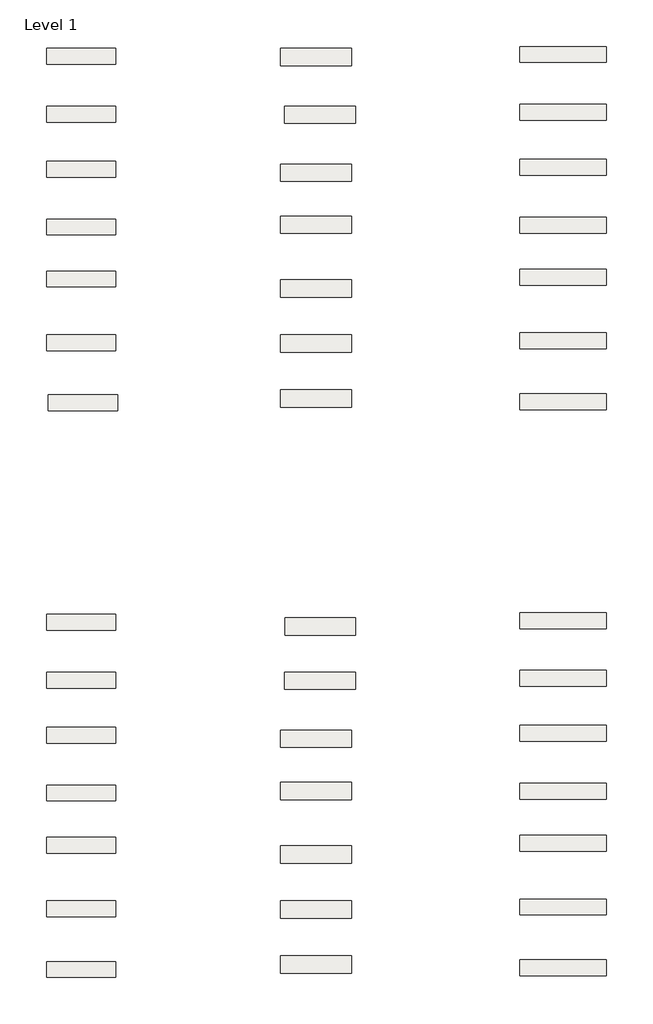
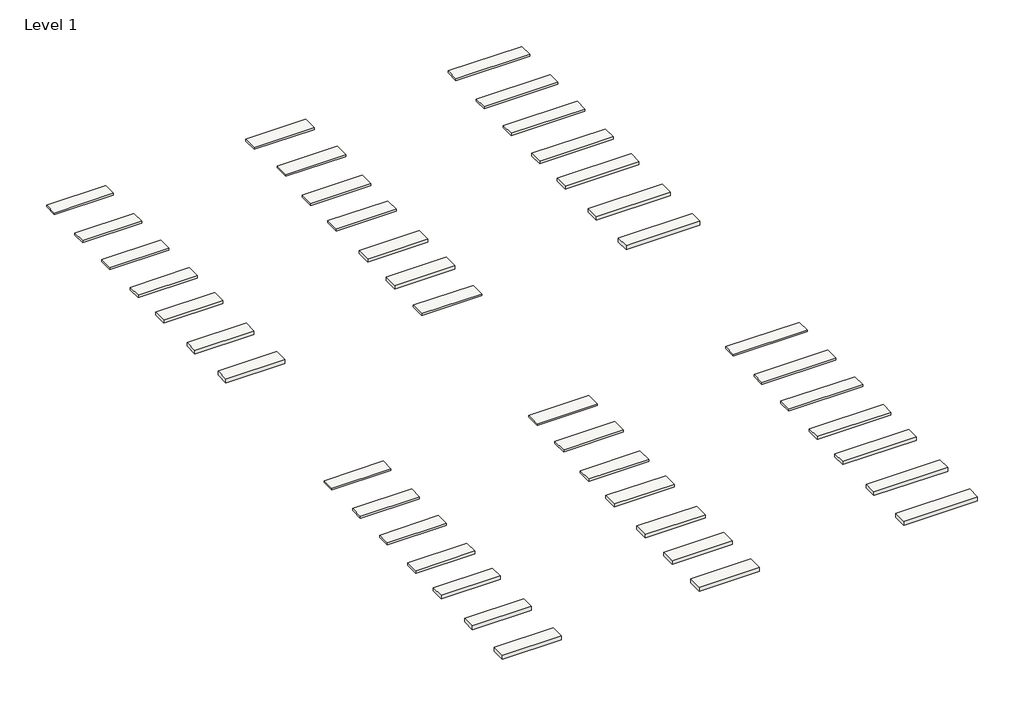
# One storey: 42 roofs.
"""IFC4 building model written with IfcOpenShell, lengths in millimetres."""

from ifc_helpers import new_model, si_unit, origin, origin_with_axes, place, context, project, spatial, polyline, outline, extrude, element, save

model = new_model("IFC4")

# Units and contexts
model_context = context("Model", 3, world=origin())
ifc_project = project(units=[si_unit("LENGTHUNIT", "METRE", prefix="MILLI")], contexts=[model_context])

# Site, building, storey
site = spatial("IfcSite", under=ifc_project)
building = spatial("IfcBuilding", under=site)
storey = spatial("IfcBuildingStorey", under=building, Name="Level 1", Elevation=0.0)

# Roofs
placement = place(None, origin())
element("IfcRoof", 1, ObjectType="Panel Thermochip TOH 15-40-16 (2400x550)", at=placement, inside=storey, context=model_context, shape_type="SweptSolid", body=[
    extrude(outline(polyline([(-17878.9678788, 6399.8223879), (-15478.9678788, 6399.8223879), (-15478.9678788, 5849.8223879), (-17878.9678788, 5849.8223879), (-17878.9678788, 6399.8223879)])), origin_with_axes(), (0.0, 0.0, 1.0), 71.0),
])
element("IfcRoof", 2, ObjectType="Panel Thermochip TOH 15-50-16 (2400x550)", at=placement, inside=storey, context=model_context, shape_type="SweptSolid", body=[
    extrude(outline(polyline([(-17878.9678788, 4399.8223879), (-15478.9678788, 4399.8223879), (-15478.9678788, 3849.8223879), (-17878.9678788, 3849.8223879), (-17878.9678788, 4399.8223879)])), origin_with_axes(), (0.0, 0.0, 1.0), 81.0),
])
element("IfcRoof", 3, ObjectType="Panel Thermochip TOH 10-60-16 (2400x550)", at=placement, inside=storey, context=model_context, shape_type="SweptSolid", body=[
    extrude(outline(polyline([(-17878.9678788, 2499.8223879), (-15478.9678788, 2499.8223879), (-15478.9678788, 1949.8223879), (-17878.9678788, 1949.8223879), (-17878.9678788, 2499.8223879)])), origin_with_axes(), (0.0, 0.0, 1.0), 91.0),
])
element("IfcRoof", 4, ObjectType="Panel Thermochip TOH 15-80-16 (2400x550)", at=placement, inside=storey, context=model_context, shape_type="SweptSolid", body=[
    extrude(outline(polyline([(-17878.9678788, 499.8223879), (-15478.9678788, 499.8223879), (-15478.9678788, -50.1776121), (-17878.9678788, -50.1776121), (-17878.9678788, 499.8223879)])), origin_with_axes(), (0.0, 0.0, 1.0), 111.0),
])
element("IfcRoof", 5, ObjectType="Panel Thermochip TOH 15-100-16 (2400x550)", at=placement, inside=storey, context=model_context, shape_type="SweptSolid", body=[
    extrude(outline(polyline([(-17878.9678788, -1300.1776121), (-15478.9678788, -1300.1776121), (-15478.9678788, -1850.1776121), (-17878.9678788, -1850.1776121), (-17878.9678788, -1300.1776121)])), origin_with_axes(), (0.0, 0.0, 1.0), 131.0),
])
element("IfcRoof", 6, ObjectType="Panel Thermochip TOH 15-120-16 (2400x550)", at=placement, inside=storey, context=model_context, shape_type="SweptSolid", body=[
    extrude(outline(polyline([(-17878.9678788, -3500.1776121), (-15478.9678788, -3500.1776121), (-15478.9678788, -4050.1776121), (-17878.9678788, -4050.1776121), (-17878.9678788, -3500.1776121)])), origin_with_axes(), (0.0, 0.0, 1.0), 151.0),
])
element("IfcRoof", 7, ObjectType="Panel Thermochip TOH 15-140-16 (2400x550)", at=placement, inside=storey, context=model_context, shape_type="SweptSolid", body=[
    extrude(outline(polyline([(-17820.3390717, -5581.0046098), (-15420.3390717, -5581.0046098), (-15420.3390717, -6131.0046098), (-17820.3390717, -6131.0046098), (-17820.3390717, -5581.0046098)])), origin_with_axes(), (0.0, 0.0, 1.0), 171.0),
])
element("IfcRoof", 8, ObjectType="Panel Thermochip TOH 15-40-16 (2440x550)", at=placement, inside=storey, context=model_context, shape_type="SweptSolid", body=[
    extrude(outline(polyline([(-9778.9678788, 6399.8223879), (-7338.9678788, 6399.8223879), (-7338.9678788, 5799.8223879), (-9778.9678788, 5799.8223879), (-9778.9678788, 6399.8223879)])), origin_with_axes(), (0.0, 0.0, 1.0), 71.0),
])
element("IfcRoof", 9, ObjectType="Panel Thermochip TOH 15-50-16 (2440x600)", at=placement, inside=storey, context=model_context, shape_type="SweptSolid", body=[
    extrude(outline(polyline([(-9639.4549313, 4404.6942874), (-7199.4549313, 4404.6942874), (-7199.4549313, 3804.6942874), (-9639.4549313, 3804.6942874), (-9639.4549313, 4404.6942874)])), origin_with_axes(), (0.0, 0.0, 1.0), 81.0),
])
element("IfcRoof", 10, ObjectType="Panel Thermochip TOH 15-60-16 (2440x600)", at=placement, inside=storey, context=model_context, shape_type="SweptSolid", body=[
    extrude(outline(polyline([(-9778.9678788, 2399.8223879), (-7338.9678788, 2399.8223879), (-7338.9678788, 1799.8223879), (-9778.9678788, 1799.8223879), (-9778.9678788, 2399.8223879)])), origin_with_axes(), (0.0, 0.0, 1.0), 91.0),
])
element("IfcRoof", 11, ObjectType="Panel Thermochip TOH 15-80-16 (2440x600)", at=placement, inside=storey, context=model_context, shape_type="SweptSolid", body=[
    extrude(outline(polyline([(-9778.9678788, 599.8223879), (-7338.9678788, 599.8223879), (-7338.9678788, -0.1776121), (-9778.9678788, -0.1776121), (-9778.9678788, 599.8223879)])), origin_with_axes(), (0.0, 0.0, 1.0), 81.0),
])
element("IfcRoof", 12, ObjectType="Panel Thermochip TOH 15-100-16 (2440x600)", at=placement, inside=storey, context=model_context, shape_type="SweptSolid", body=[
    extrude(outline(polyline([(-9778.9678788, -1600.1776121), (-7338.9678788, -1600.1776121), (-7338.9678788, -2200.1776121), (-9778.9678788, -2200.1776121), (-9778.9678788, -1600.1776121)])), origin_with_axes(), (0.0, 0.0, 1.0), 131.0),
])
element("IfcRoof", 13, ObjectType="Panel Thermochip TOH 15-120-16 (2440x600)", at=placement, inside=storey, context=model_context, shape_type="SweptSolid", body=[
    extrude(outline(polyline([(-9778.9678788, -3500.1776121), (-7338.9678788, -3500.1776121), (-7338.9678788, -4100.1776121), (-9778.9678788, -4100.1776121), (-9778.9678788, -3500.1776121)])), origin_with_axes(), (0.0, 0.0, 1.0), 151.0),
])
element("IfcRoof", 14, ObjectType="Panel Thermochip TOH 10-140-16 (2440x550)", at=placement, inside=storey, context=model_context, shape_type="SweptSolid", body=[
    extrude(outline(polyline([(-9778.9678788, -5400.1776121), (-7338.9678788, -5400.1776121), (-7338.9678788, -6000.1776121), (-9778.9678788, -6000.1776121), (-9778.9678788, -5400.1776121)])), origin_with_axes(), (0.0, 0.0, 1.0), 81.0),
])
element("IfcRoof", 15, ObjectType="Panel Thermochip TOH 15-40-16 (3000x550)", at=placement, inside=storey, context=model_context, shape_type="SweptSolid", body=[
    extrude(outline(polyline([(-1510.4474716, 6460.3549134), (1489.5525284, 6460.3549134), (1489.5525284, 5910.3549134), (-1510.4474716, 5910.3549134), (-1510.4474716, 6460.3549134)])), origin_with_axes(), (0.0, 0.0, 1.0), 81.0),
])
element("IfcRoof", 16, ObjectType="Panel Thermochip TOH 15-50-16 (3000x550)", at=placement, inside=storey, context=model_context, shape_type="SweptSolid", body=[
    extrude(outline(polyline([(-1510.4474716, 4460.3549134), (1489.5525284, 4460.3549134), (1489.5525284, 3910.3549134), (-1510.4474716, 3910.3549134), (-1510.4474716, 4460.3549134)])), origin_with_axes(), (0.0, 0.0, 1.0), 81.0),
])
element("IfcRoof", 17, ObjectType="Panel Thermochip TOH 15-60-16 (3000x550)", at=placement, inside=storey, context=model_context, shape_type="SweptSolid", body=[
    extrude(outline(polyline([(-1510.4474716, 2560.3549134), (1489.5525284, 2560.3549134), (1489.5525284, 2010.3549134), (-1510.4474716, 2010.3549134), (-1510.4474716, 2560.3549134)])), origin_with_axes(), (0.0, 0.0, 1.0), 91.0),
])
element("IfcRoof", 18, ObjectType="Panel Thermochip TOH 15-80-16 (3000x550)", at=placement, inside=storey, context=model_context, shape_type="SweptSolid", body=[
    extrude(outline(polyline([(-1510.4474716, 560.3549134), (1489.5525284, 560.3549134), (1489.5525284, 10.3549134), (-1510.4474716, 10.3549134), (-1510.4474716, 560.3549134)])), origin_with_axes(), (0.0, 0.0, 1.0), 111.0),
])
element("IfcRoof", 19, ObjectType="Panel Thermochip TOH 15-100-16 (3000x550)", at=placement, inside=storey, context=model_context, shape_type="SweptSolid", body=[
    extrude(outline(polyline([(-1510.4474716, -1239.6450866), (1489.5525284, -1239.6450866), (1489.5525284, -1789.6450866), (-1510.4474716, -1789.6450866), (-1510.4474716, -1239.6450866)])), origin_with_axes(), (0.0, 0.0, 1.0), 131.0),
])
element("IfcRoof", 20, ObjectType="Panel Thermochip TOH 15-120-16 (3000x600)", at=placement, inside=storey, context=model_context, shape_type="SweptSolid", body=[
    extrude(outline(polyline([(-1510.4474716, -3439.6450866), (1489.5525284, -3439.6450866), (1489.5525284, -3989.6450866), (-1510.4474716, -3989.6450866), (-1510.4474716, -3439.6450866)])), origin_with_axes(), (0.0, 0.0, 1.0), 151.0),
])
element("IfcRoof", 21, ObjectType="Panel Thermochip TOH 15-140-16 (3000x550)", at=placement, inside=storey, context=model_context, shape_type="SweptSolid", body=[
    extrude(outline(polyline([(-1510.4474716, -5539.6450866), (1489.5525284, -5539.6450866), (1489.5525284, -6089.6450866), (-1510.4474716, -6089.6450866), (-1510.4474716, -5539.6450866)])), origin_with_axes(), (0.0, 0.0, 1.0), 171.0),
])
element("IfcRoof", 22, ObjectType="Panel Thermochip TOH 15-40-19 (2400x550)", at=placement, inside=storey, context=model_context, shape_type="SweptSolid", body=[
    extrude(outline(polyline([(-17878.9678788, -13163.6783749), (-15478.9678788, -13163.6783749), (-15478.9678788, -13713.6783749), (-17878.9678788, -13713.6783749), (-17878.9678788, -13163.6783749)])), origin_with_axes(), (0.0, 0.0, 1.0), 74.0),
])
element("IfcRoof", 23, ObjectType="Panel Thermochip TOH 15-50-19 (2400x550)", at=placement, inside=storey, context=model_context, shape_type="SweptSolid", body=[
    extrude(outline(polyline([(-17878.9678788, -15163.6783749), (-15478.9678788, -15163.6783749), (-15478.9678788, -15713.6783749), (-17878.9678788, -15713.6783749), (-17878.9678788, -15163.6783749)])), origin_with_axes(), (0.0, 0.0, 1.0), 84.0),
])
element("IfcRoof", 24, ObjectType="Panel Thermochip TOH 15-60-19 (2400x550)", at=placement, inside=storey, context=model_context, shape_type="SweptSolid", body=[
    extrude(outline(polyline([(-17878.9678788, -17063.6783749), (-15478.9678788, -17063.6783749), (-15478.9678788, -17613.6783749), (-17878.9678788, -17613.6783749), (-17878.9678788, -17063.6783749)])), origin_with_axes(), (0.0, 0.0, 1.0), 94.0),
])
element("IfcRoof", 25, ObjectType="Panel Thermochip TOH 15-80-19 (2400x550)", at=placement, inside=storey, context=model_context, shape_type="SweptSolid", body=[
    extrude(outline(polyline([(-17878.9678788, -19063.6783749), (-15478.9678788, -19063.6783749), (-15478.9678788, -19613.6783749), (-17878.9678788, -19613.6783749), (-17878.9678788, -19063.6783749)])), origin_with_axes(), (0.0, 0.0, 1.0), 114.0),
])
element("IfcRoof", 26, ObjectType="Panel Thermochip TOH 15-100-19 (2400x550)", at=placement, inside=storey, context=model_context, shape_type="SweptSolid", body=[
    extrude(outline(polyline([(-17878.9678788, -20863.6783749), (-15478.9678788, -20863.6783749), (-15478.9678788, -21413.6783749), (-17878.9678788, -21413.6783749), (-17878.9678788, -20863.6783749)])), origin_with_axes(), (0.0, 0.0, 1.0), 134.0),
])
element("IfcRoof", 27, ObjectType="Panel Thermochip TOH 15-120-19 (2400x550)", at=placement, inside=storey, context=model_context, shape_type="SweptSolid", body=[
    extrude(outline(polyline([(-17878.9678788, -23063.6783749), (-15478.9678788, -23063.6783749), (-15478.9678788, -23613.6783749), (-17878.9678788, -23613.6783749), (-17878.9678788, -23063.6783749)])), origin_with_axes(), (0.0, 0.0, 1.0), 154.0),
])
element("IfcRoof", 28, ObjectType="Panel Thermochip TOH 15-140-19 (2400x550)", at=placement, inside=storey, context=model_context, shape_type="SweptSolid", body=[
    extrude(outline(polyline([(-17878.9678788, -25163.6783749), (-15478.9678788, -25163.6783749), (-15478.9678788, -25713.6783749), (-17878.9678788, -25713.6783749), (-17878.9678788, -25163.6783749)])), origin_with_axes(), (0.0, 0.0, 1.0), 174.0),
])
element("IfcRoof", 29, ObjectType="Panel Thermochip TOH 15-40-19 (2440x600)", at=placement, inside=storey, context=model_context, shape_type="SweptSolid", body=[
    extrude(outline(polyline([(-9633.0462631, -13285.2797214), (-7193.0462631, -13285.2797214), (-7193.0462631, -13885.2797214), (-9633.0462631, -13885.2797214), (-9633.0462631, -13285.2797214)])), origin_with_axes(), (0.0, 0.0, 1.0), 74.0),
])
element("IfcRoof", 30, ObjectType="Panel Thermochip TOH 15-50-19 (2440x600)", at=placement, inside=storey, context=model_context, shape_type="SweptSolid", body=[
    extrude(outline(polyline([(-9639.4549313, -15158.8064755), (-7199.4549313, -15158.8064755), (-7199.4549313, -15758.8064755), (-9639.4549313, -15758.8064755), (-9639.4549313, -15158.8064755)])), origin_with_axes(), (0.0, 0.0, 1.0), 84.0),
])
element("IfcRoof", 31, ObjectType="Panel Thermochip TOH 15-60-19 (2440x600)", at=placement, inside=storey, context=model_context, shape_type="SweptSolid", body=[
    extrude(outline(polyline([(-9778.9678788, -17163.6783749), (-7338.9678788, -17163.6783749), (-7338.9678788, -17763.6783749), (-9778.9678788, -17763.6783749), (-9778.9678788, -17163.6783749)])), origin_with_axes(), (0.0, 0.0, 1.0), 94.0),
])
element("IfcRoof", 32, ObjectType="Panel Thermochip TOH 15-80-19 (2440x600)", at=placement, inside=storey, context=model_context, shape_type="SweptSolid", body=[
    extrude(outline(polyline([(-9778.9678788, -18963.6783749), (-7338.9678788, -18963.6783749), (-7338.9678788, -19563.6783749), (-9778.9678788, -19563.6783749), (-9778.9678788, -18963.6783749)])), origin_with_axes(), (0.0, 0.0, 1.0), 114.0),
])
element("IfcRoof", 33, ObjectType="Panel Thermochip TOH 15-100-19 (2440x600)", at=placement, inside=storey, context=model_context, shape_type="SweptSolid", body=[
    extrude(outline(polyline([(-9778.9678788, -21163.6783749), (-7338.9678788, -21163.6783749), (-7338.9678788, -21763.6783749), (-9778.9678788, -21763.6783749), (-9778.9678788, -21163.6783749)])), origin_with_axes(), (0.0, 0.0, 1.0), 134.0),
])
element("IfcRoof", 34, ObjectType="Panel Thermochip TOH 15-120-19 (2440x600)", at=placement, inside=storey, context=model_context, shape_type="SweptSolid", body=[
    extrude(outline(polyline([(-9778.9678788, -23063.6783749), (-7338.9678788, -23063.6783749), (-7338.9678788, -23663.6783749), (-9778.9678788, -23663.6783749), (-9778.9678788, -23063.6783749)])), origin_with_axes(), (0.0, 0.0, 1.0), 154.0),
])
element("IfcRoof", 35, ObjectType="Panel Thermochip TOH 15-140-19 (2440x550)", at=placement, inside=storey, context=model_context, shape_type="SweptSolid", body=[
    extrude(outline(polyline([(-9778.9678788, -24963.6783749), (-7338.9678788, -24963.6783749), (-7338.9678788, -25563.6783749), (-9778.9678788, -25563.6783749), (-9778.9678788, -24963.6783749)])), origin_with_axes(), (0.0, 0.0, 1.0), 174.0),
])
element("IfcRoof", 36, ObjectType="Panel Thermochip TOH 15-40-19 (3000x550)", at=placement, inside=storey, context=model_context, shape_type="SweptSolid", body=[
    extrude(outline(polyline([(-1510.4474716, -13103.1458495), (1489.5525284, -13103.1458495), (1489.5525284, -13653.1458495), (-1510.4474716, -13653.1458495), (-1510.4474716, -13103.1458495)])), origin_with_axes(), (0.0, 0.0, 1.0), 74.0),
])
element("IfcRoof", 37, ObjectType="Panel Thermochip TOH 15-50-19 (3000x550)", at=placement, inside=storey, context=model_context, shape_type="SweptSolid", body=[
    extrude(outline(polyline([(-1510.4474716, -15103.1458495), (1489.5525284, -15103.1458495), (1489.5525284, -15653.1458495), (-1510.4474716, -15653.1458495), (-1510.4474716, -15103.1458495)])), origin_with_axes(), (0.0, 0.0, 1.0), 84.0),
])
element("IfcRoof", 38, ObjectType="Panel Thermochip TOH 15-60-19 (3000x550)", at=placement, inside=storey, context=model_context, shape_type="SweptSolid", body=[
    extrude(outline(polyline([(-1510.4474716, -17003.1458495), (1489.5525284, -17003.1458495), (1489.5525284, -17553.1458495), (-1510.4474716, -17553.1458495), (-1510.4474716, -17003.1458495)])), origin_with_axes(), (0.0, 0.0, 1.0), 94.0),
])
element("IfcRoof", 39, ObjectType="Panel Thermochip TOH 15-80-19 (3000x550)", at=placement, inside=storey, context=model_context, shape_type="SweptSolid", body=[
    extrude(outline(polyline([(-1510.4474716, -19003.1458495), (1489.5525284, -19003.1458495), (1489.5525284, -19553.1458495), (-1510.4474716, -19553.1458495), (-1510.4474716, -19003.1458495)])), origin_with_axes(), (0.0, 0.0, 1.0), 114.0),
])
element("IfcRoof", 40, ObjectType="Panel Thermochip TOH 15-100-19 (3000x550)", at=placement, inside=storey, context=model_context, shape_type="SweptSolid", body=[
    extrude(outline(polyline([(-1510.4474716, -20803.1458495), (1489.5525284, -20803.1458495), (1489.5525284, -21353.1458495), (-1510.4474716, -21353.1458495), (-1510.4474716, -20803.1458495)])), origin_with_axes(), (0.0, 0.0, 1.0), 134.0),
])
element("IfcRoof", 41, ObjectType="Panel Thermochip TOH 15-120-19 (3000x550)", at=placement, inside=storey, context=model_context, shape_type="SweptSolid", body=[
    extrude(outline(polyline([(-1510.4474716, -23003.1458495), (1489.5525284, -23003.1458495), (1489.5525284, -23553.1458495), (-1510.4474716, -23553.1458495), (-1510.4474716, -23003.1458495)])), origin_with_axes(), (0.0, 0.0, 1.0), 154.0),
])
element("IfcRoof", 42, ObjectType="Panel Thermochip TOH 15-140-19 (3000x550)", at=placement, inside=storey, context=model_context, shape_type="SweptSolid", body=[
    extrude(outline(polyline([(-1510.4474716, -25103.1458495), (1489.5525284, -25103.1458495), (1489.5525284, -25653.1458495), (-1510.4474716, -25653.1458495), (-1510.4474716, -25103.1458495)])), origin_with_axes(), (0.0, 0.0, 1.0), 174.0),
])

save(model, "model.ifc")
